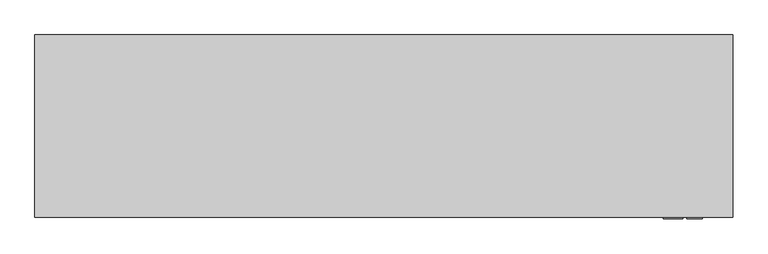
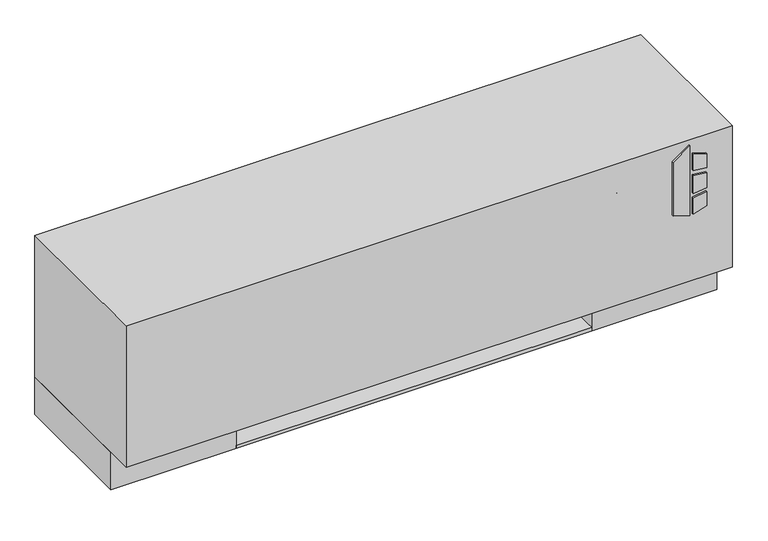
"""IFC4 building model written with IfcOpenShell, lengths in millimetres: proxy geometry, Exposed_Low_Boy_Fan_Coil_Unit Fan_-_LXA_-_IEC_-_4-Pipe_LH_2022 : Size 03 - 277v/60Hz/1Ph - 2/1 Coil."""

from ifc_helpers import new_model, si_unit, point, frame, frame_2d, origin, origin_with_axes, place, context, project, spatial, polyline, circle_curve, trimmed, segment, composite_curve, outline, extrude, faceted_brep, source, transform, mapped, element, save


def mechanical_equipment_0cc4002c(model_context):
    return source(origin(), model_context, "Body", "SolidModel", [
        faceted_brep([(1257.3, -266.7, 114.3), (1079.5, -266.7, 114.3), (1079.5, -520.7, 114.3), (1257.3, -520.7, 114.3), (1082.675, -269.875, 114.3), (1254.125, -269.875, 114.3), (1254.125, -517.525, 114.3), (1082.675, -517.525, 114.3), (1257.3, -266.7, 88.9), (1257.3, -520.7, 88.9), (1079.5, -520.7, 88.9), (1079.5, -266.7, 88.9), (1254.125, -269.875, 92.0747888), (1082.675, -269.875, 92.0747888), (1082.675, -517.525, 92.0747888), (1254.125, -517.525, 92.0747888)], [[[0, 1, 2, 3], [4, 5, 6, 7]], [[8, 9, 10, 11]], [[1, 0, 8, 11]], [[2, 1, 11, 10]], [[3, 2, 10, 9]], [[0, 3, 9, 8]], [[12, 13, 14, 15]], [[13, 12, 5, 4]], [[14, 13, 4, 7]], [[15, 14, 7, 6]], [[12, 15, 6, 5]]]),
        extrude(outline(composite_curve([segment(trimmed(circle_curve(frame_2d((1168.4, -393.7)), 9.525), [point((1158.875, -393.7))], [point((1177.925, -393.7))], False, "CARTESIAN"), True, "CONTINUOUS"), segment(trimmed(circle_curve(frame_2d((1168.4, -393.7)), 9.525), [point((1177.925, -393.7))], [point((1158.875, -393.7))], False, "CARTESIAN"), True, "CONTINUOUS")], self_intersect=False)), frame((0.0, 0.0, 63.5), z_axis=(0.0, 0.0, 1.0), x_axis=(1.0, 0.0, 0.0)), (0.0, 0.0, 1.0), 25.4),
        extrude(outline(polyline([(222.6730703, 1204.9868862), (212.725, 1237.1602728), (354.8959244, 1237.1602728), (331.8739183, 1204.9868862), (222.6730703, 1204.9868862)])), frame((0.0, -546.1, 0.0), z_axis=(0.0, 1.0, 0.0), x_axis=(0.0, 0.0, 1.0)), (0.0, 0.0, 1.0), 3.175),
        extrude(outline(polyline([(301.6723557, 1243.9186058), (298.4699632, 1270.0), (327.6988042, 1270.0), (335.7632193, 1243.9186058), (301.6723557, 1243.9186058)])), frame((0.0, -546.1, 0.0), z_axis=(0.0, 1.0, 0.0), x_axis=(0.0, 0.0, 1.0)), (0.0, 0.0, 1.0), 3.175),
        extrude(outline(polyline([(249.8088288, 1270.0), (246.1433279, 1243.9186058), (212.725, 1243.9186058), (221.3592372, 1270.0), (249.8088288, 1270.0)])), frame((0.0, -546.1, 0.0), z_axis=(0.0, 1.0, 0.0), x_axis=(0.0, 0.0, 1.0)), (0.0, 0.0, 1.0), 3.175),
        extrude(outline(polyline([(289.1239903, 1270.0), (291.4058166, 1243.9186058), (255.4682681, 1243.9186058), (258.2095331, 1270.0), (289.1239903, 1270.0)])), frame((0.0, -546.1, 0.0), z_axis=(0.0, 1.0, 0.0), x_axis=(0.0, 0.0, 1.0)), (0.0, 0.0, 1.0), 3.175),
        faceted_brep([(1320.8, -238.125, 365.125), (152.4, -238.125, 365.125), (152.4, -542.925, 365.125), (1320.8, -542.925, 365.125), (1320.8, -238.125, 76.2), (1320.8, -542.925, 76.2), (152.4, -542.925, 76.2), (152.4, -238.125, 76.2), (165.1, -238.125, 76.2), (165.1, -517.525, 76.2), (393.7, -517.525, 76.2), (393.7, -238.125, 76.2), (1079.5, -238.125, 76.2), (1079.5, -517.525, 76.2), (1308.1, -517.525, 76.2), (1308.1, -238.125, 76.2), (1308.1, -238.125, 339.725), (1079.5, -238.125, 339.725), (393.7, -238.125, 339.725), (165.1, -238.125, 339.725), (1308.1, -517.525, 339.725), (1079.5, -517.525, 339.725), (393.7, -517.525, 339.725), (165.1, -517.525, 339.725)], [[[0, 1, 2, 3]], [[4, 5, 6, 7, 8, 9, 10, 11, 12, 13, 14, 15]], [[1, 0, 4, 15, 16, 17, 12, 11, 18, 19, 8, 7]], [[2, 1, 7, 6]], [[3, 2, 6, 5]], [[0, 3, 5, 4]], [[16, 20, 21, 17]], [[18, 22, 23, 19]], [[17, 21, 13, 12]], [[21, 20, 14, 13]], [[20, 16, 15, 14]], [[19, 23, 9, 8]], [[23, 22, 10, 9]], [[22, 18, 11, 10]]]),
        extrude(outline(polyline([(1079.5, -492.125), (393.7, -492.125), (393.7, -244.475), (1079.5, -244.475), (1079.5, -492.125)])), origin_with_axes(), (0.0, 0.0, 1.0), 6.35),
        extrude(outline(polyline([(1079.5, -238.125), (1079.5, -244.475), (393.7, -244.475), (393.7, -238.125), (1079.5, -238.125)])), origin_with_axes(), (0.0, 0.0, 1.0), 76.2),
        extrude(outline(polyline([(1320.8, -238.125), (1320.8, -492.125), (1079.5, -492.125), (1079.5, -238.125), (1320.8, -238.125)]), holes=[polyline([(1092.2, -485.775), (1308.1, -485.775), (1308.1, -244.475), (1092.2, -244.475), (1092.2, -485.775)])]), origin_with_axes(), (0.0, 0.0, 1.0), 76.2),
        extrude(outline(polyline([(393.7, -238.125), (393.7, -492.125), (152.4, -492.125), (152.4, -238.125), (393.7, -238.125)]), holes=[polyline([(381.0, -244.475), (165.1, -244.475), (165.1, -485.775), (381.0, -485.775), (381.0, -244.475)])]), origin_with_axes(), (0.0, 0.0, 1.0), 76.2),
        extrude(outline(composite_curve([segment(trimmed(circle_curve(frame_2d((-485.775, 268.2875)), 7.9375), [point((-485.775, 260.35))], [point((-485.775, 276.225))], False, "CARTESIAN"), True, "CONTINUOUS"), segment(trimmed(circle_curve(frame_2d((-485.775, 268.2875)), 7.9375), [point((-485.775, 276.225))], [point((-485.775, 260.35))], False, "CARTESIAN"), True, "CONTINUOUS")], self_intersect=False)), frame((1079.5, 0.0, 0.0), z_axis=(1.0, 0.0, 0.0), x_axis=(0.0, 1.0, 0.0)), (0.0, 0.0, 1.0), 50.8),
        extrude(outline(composite_curve([segment(trimmed(circle_curve(frame_2d((-485.775, 227.0125)), 7.9375), [point((-485.775, 219.075))], [point((-485.775, 234.95))], False, "CARTESIAN"), True, "CONTINUOUS"), segment(trimmed(circle_curve(frame_2d((-485.775, 227.0125)), 7.9375), [point((-485.775, 234.95))], [point((-485.775, 219.075))], False, "CARTESIAN"), True, "CONTINUOUS")], self_intersect=False)), frame((1079.5, 0.0, 0.0), z_axis=(1.0, 0.0, 0.0), x_axis=(0.0, 1.0, 0.0)), (0.0, 0.0, 1.0), 50.8),
        extrude(outline(composite_curve([segment(trimmed(circle_curve(frame_2d((-269.875, 273.05)), 7.9375), [point((-269.875, 265.1125))], [point((-269.875, 280.9875))], False, "CARTESIAN"), True, "CONTINUOUS"), segment(trimmed(circle_curve(frame_2d((-269.875, 273.05)), 7.9375), [point((-269.875, 280.9875))], [point((-269.875, 265.1125))], False, "CARTESIAN"), True, "CONTINUOUS")], self_intersect=False)), frame((1079.5, 0.0, 0.0), z_axis=(1.0, 0.0, 0.0), x_axis=(0.0, 1.0, 0.0)), (0.0, 0.0, 1.0), 50.8),
        extrude(outline(composite_curve([segment(trimmed(circle_curve(frame_2d((-271.4625, 314.325)), 7.9375), [point((-271.4625, 306.3875))], [point((-271.4625, 322.2625))], False, "CARTESIAN"), True, "CONTINUOUS"), segment(trimmed(circle_curve(frame_2d((-271.4625, 314.325)), 7.9375), [point((-271.4625, 322.2625))], [point((-271.4625, 306.3875))], False, "CARTESIAN"), True, "CONTINUOUS")], self_intersect=False)), frame((1079.5, 0.0, 0.0), z_axis=(1.0, 0.0, 0.0), x_axis=(0.0, 1.0, 0.0)), (0.0, 0.0, 1.0), 50.8),
    ])


if __name__ == "__main__":
    model = new_model("IFC4")
    model_context = context("Model", 3, world=origin())
    ifc_project = project(units=[si_unit("LENGTHUNIT", "METRE", prefix="MILLI")], contexts=[model_context])
    site = spatial("IfcSite", under=ifc_project)
    building = spatial("IfcBuilding", under=site)
    placement = place(None, origin())
    mechanical_equipment_shape = mechanical_equipment_0cc4002c(model_context)
    element("IfcBuildingElementProxy", 1, Name="Exposed_Low_Boy_Fan_Coil_Unit Fan_-_LXA_-_IEC_-_4-Pipe_LH_2022 : Size 03 - 277v/60Hz/1Ph - 2/1 Coil", ObjectType="Exposed_Low_Boy_Fan_Coil_Unit Fan_-_LXA_-_IEC_-_4-Pipe_LH_2022 : Size 03 - 277v/60Hz/1Ph - 2/1 Coil", at=placement, inside=building, context=model_context, shape_type="MappedRepresentation", body=[
        mapped(mechanical_equipment_shape, transform((0.0, 0.0, 0.0), x_axis=(1.0, 0.0, 0.0), y_axis=(0.0, 1.0, 0.0), z_axis=(0.0, 0.0, 1.0))),
    ])
    save(model, "model.ifc")
